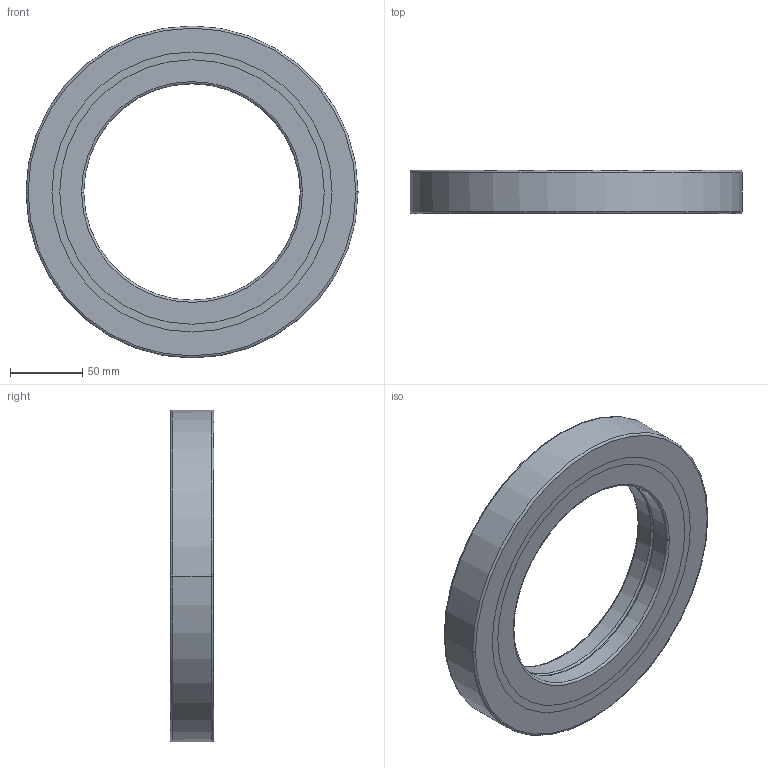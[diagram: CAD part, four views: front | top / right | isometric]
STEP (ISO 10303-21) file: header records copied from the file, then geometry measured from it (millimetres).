
FILE_DESCRIPTION(('no description'),'unknown implementation level');
FILE_NAME('CRBB15030_71.stp',' ',('HIWIN GmbH'),('CADClick - KiM GmbH - www.kimweb.de'),'unknown preprocess','ACIS','unknown authorization');
FILE_SCHEMA(('automotive_design'));
Length unit declared in the file: millimetre
Products named in the file (5): CRBB15030_1; CRBB15030_2; CRBB15030_3; CRBB15030_4; CRBB15030
Bounding box: 230 x 30 x 230 mm (x, y, z)
Volume: 629885.8 mm3; surface area: 144897.8 mm2
Topology: 5 solids, 5 shells, 54 faces, 120 edges, 76 vertices
Faces by surface type: torus 24, cylinder 20, plane 10
Entity records: 3096 total; most frequent: DIRECTION 338, STYLED_ITEM 255, PRESENTATION_STYLE_ASSIGNMENT 255, CARTESIAN_POINT 255, COLOUR_RGB 255, ORIENTED_EDGE 240, AXIS2_PLACEMENT_3D 159, EDGE_CURVE 120
